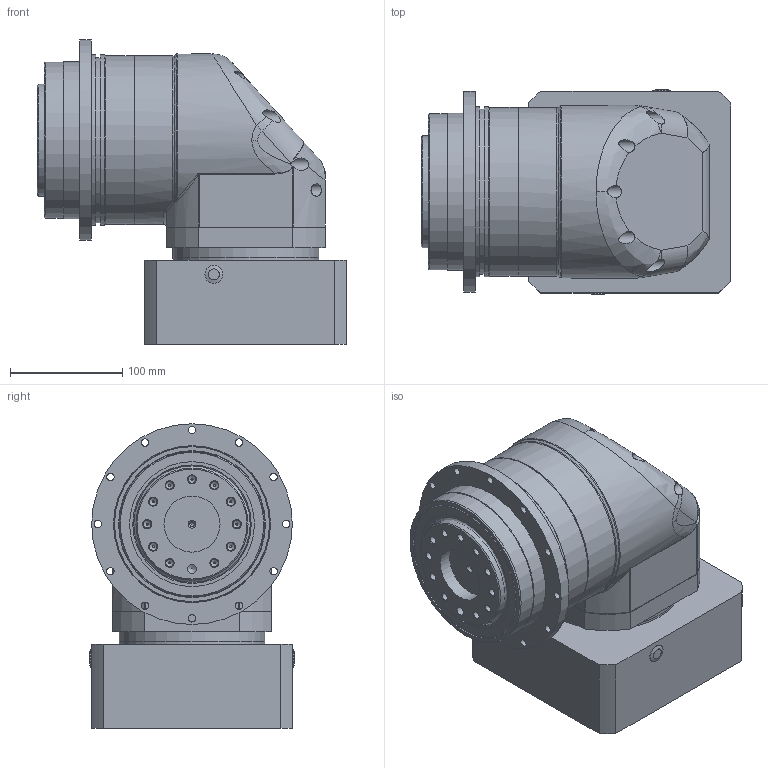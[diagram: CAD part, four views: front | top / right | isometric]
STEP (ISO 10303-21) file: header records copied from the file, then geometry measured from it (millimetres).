
FILE_DESCRIPTION (( 'STEP AP203' ), '1' );
FILE_NAME ('ADR140-L1-42-114.3-200-M12£¨¼Óºñ£©.STEP', '2024-04-25T00:16:23', ( '' ), ( '' ), 'SwSTEP 2.0', 'SolidWorks 2018', '' );
FILE_SCHEMA (( 'CONFIG_CONTROL_DESIGN' ));
Length unit declared in the file: millimetre
Products named in the file (1): ADR140-L1-42-114.3-200-M12（加厚）
Bounding box: 276 x 183 x 271.5 mm (x, y, z)
Volume: 5364774.5 mm3; surface area: 567195.9 mm2
Topology: 15 solids, 16 shells, 464 faces, 1094 edges, 684 vertices
Faces by surface type: plane 164, cylinder 143, cone 74, bspline 73, torus 10
Full cylindrical faces by diameter (mm): 4 x1, 6.5 x9, 6.6 x12, 6.8 x19, 8 x1, 10.2 x4, 11 x9, 13 x8, 15 x6, 16 x4, 24 x1, 28 x1, 50 x1, 68 x1, 74 x1, 85 x1, 87 x1, 95 x1, 100 x3, 106 x1, 108 x1, 111.417 x1, 113 x1, 120 x1, 125.156 x1, 130 x5, 139.2 x1, 140 x1, 147.4 x1, 150.5 x2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
Entity records: 16197 total; most frequent: CARTESIAN_POINT 6805, DIRECTION 1841, ORIENTED_EDGE 1712, EDGE_CURVE 856, AXIS2_PLACEMENT_3D 784, EDGE_LOOP 750, VERTEX_POINT 628, FACE_OUTER_BOUND 575
